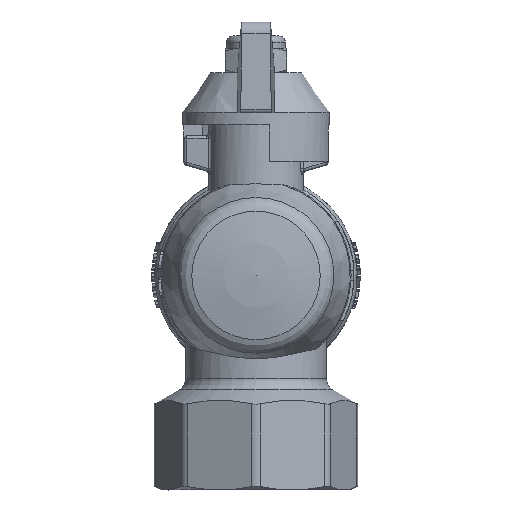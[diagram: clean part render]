
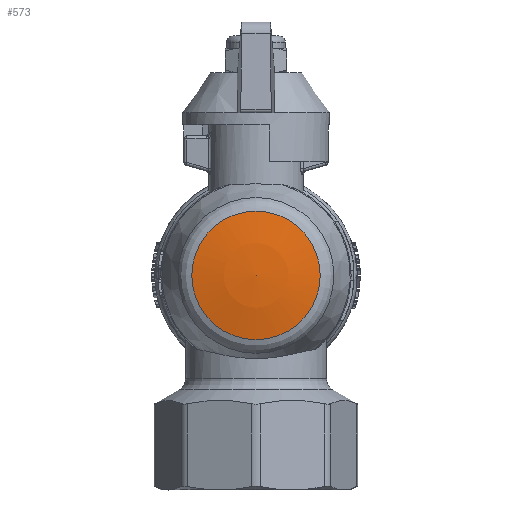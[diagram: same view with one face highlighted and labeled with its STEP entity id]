
A CAD part, front view. The second image highlights one B-rep face of the part: STEP entity #573.
In plain terms, the highlighted spherical face has radius 53 mm.
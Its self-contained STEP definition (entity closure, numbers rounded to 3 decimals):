
#573=ADVANCED_FACE('',(#4584),#4586,.T.);
#4584=FACE_OUTER_BOUND('',#4585,.T.);
#4585=EDGE_LOOP('',(#10405));
#4586=SPHERICAL_SURFACE('',#4587,53.);
#4587=AXIS2_PLACEMENT_3D('',#4588,#4589,#4590);
#4588=CARTESIAN_POINT('',(0.,36.2,0.));
#4589=DIRECTION('',(0.,1.,0.));
#4590=DIRECTION('',(0.,0.,1.));
#10405=ORIENTED_EDGE('',*,*,#13133,.F.);
#13133=EDGE_CURVE('',#16079,#16079,#16080,.T.);
#16079=VERTEX_POINT('',#27535);
#16080=CIRCLE('',#27536,10.475);
#27535=CARTESIAN_POINT('',(0.,-15.755,10.475));
#27536=AXIS2_PLACEMENT_3D('',#27537,#27538,#27539);
#27537=CARTESIAN_POINT('',(0.,-15.755,0.));
#27538=DIRECTION('',(0.,1.,0.));
#27539=DIRECTION('',(0.,0.,1.));
